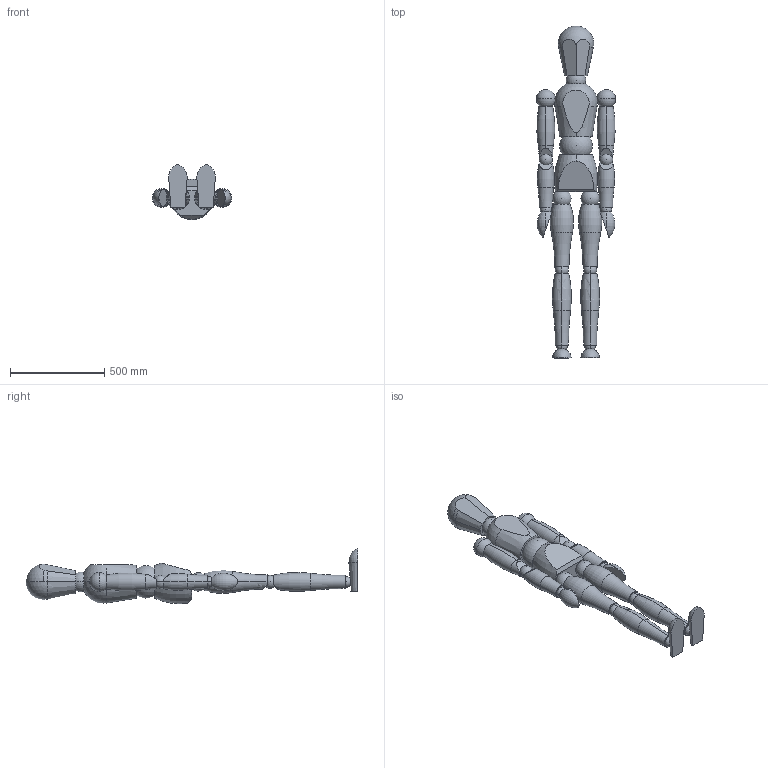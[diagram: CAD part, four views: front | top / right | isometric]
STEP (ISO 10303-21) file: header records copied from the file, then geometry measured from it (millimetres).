
FILE_DESCRIPTION (( 'STEP AP214' ), '1' );
FILE_NAME ('Ikea boy.STEP', '2009-02-24T08:11:43', ( 'Andreas' ), ( '' ), 'SwSTEP 2.0', 'SolidWorks 2008', '' );
FILE_SCHEMA (( 'AUTOMOTIVE_DESIGN' ));
Length unit declared in the file: millimetre
Products named in the file (12): Arm_Výchozí; Hand_Výchozí; Pelvis_Výchozí; Ikea boy; Head_Výchozí; Sura_Výchozí; Forearm_Výchozí; Femur_Výchozí; Foot_Výchozí; Body_Výchozí; Waist_Výchozí; Hip_Výchozí
Assembly tree (18 placements, depth 2):
  Ikea boy
    Hand_Výchozí  x2
    Femur_Výchozí  x2
    Waist_Výchozí
    Hip_Výchozí  x2
    Pelvis_Výchozí
    Arm_Výchozí  x2
    Foot_Výchozí  x2
    Sura_Výchozí  x2
    Body_Výchozí
    Head_Výchozí
    Forearm_Výchozí  x2
Bounding box: 420.62 x 1759.64 x 293.58 mm (x, y, z)
Volume: 42099670.5 mm3; surface area: 1777105.6 mm2
Topology: 18 solids, 18 shells, 154 faces, 406 edges, 270 vertices
Faces by surface type: sphere 67, torus 40, plane 40, cone 7
Entity records: 3829 total; most frequent: CARTESIAN_POINT 1182, DIRECTION 581, ORIENTED_EDGE 408, AXIS2_PLACEMENT_3D 280, EDGE_CURVE 204, CIRCLE 163, VERTEX_POINT 140, EDGE_LOOP 106
